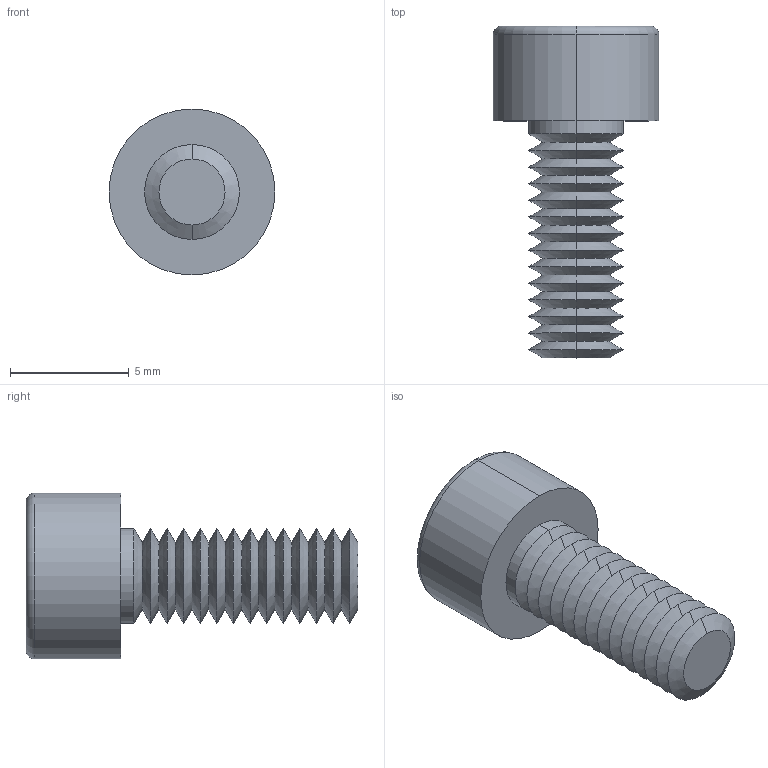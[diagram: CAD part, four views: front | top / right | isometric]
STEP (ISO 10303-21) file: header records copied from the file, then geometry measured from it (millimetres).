
FILE_DESCRIPTION (( 'STEP AP203' ), '1' );
FILE_NAME ('91N.040.0100.step', '2025-05-20T08:50:45', ( '' ), ( '' ), 'SwSTEP 2.0', 'SolidWorks 2019', '' );
FILE_SCHEMA (( 'CONFIG_CONTROL_DESIGN' ));
Length unit declared in the file: millimetre
Products named in the file (1): 91N.040.0100
Bounding box: 7 x 14 x 7 mm (x, y, z)
Volume: 221.2 mm3; surface area: 395.4 mm2
Topology: 1 solids, 1 shells, 84 faces, 167 edges, 85 vertices
Faces by surface type: cone 63, plane 15, cylinder 4, torus 2
Entity records: 2178 total; most frequent: DIRECTION 407, CARTESIAN_POINT 362, ORIENTED_EDGE 330, EDGE_CURVE 165, AXIS2_PLACEMENT_3D 164, EDGE_LOOP 86, VERTEX_POINT 85, FACE_OUTER_BOUND 84
